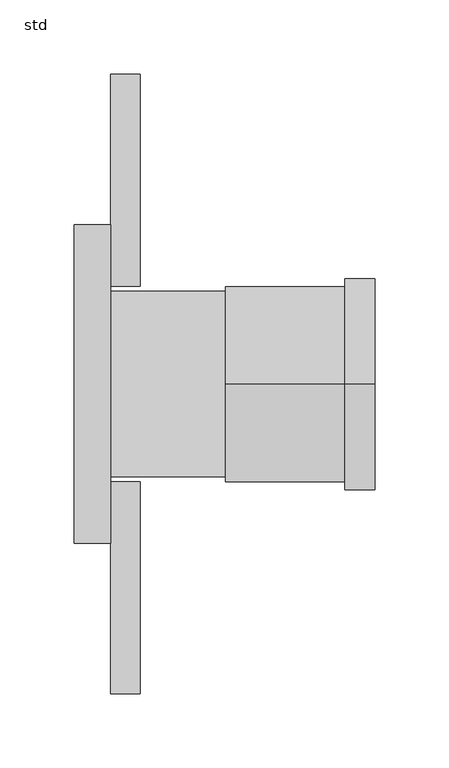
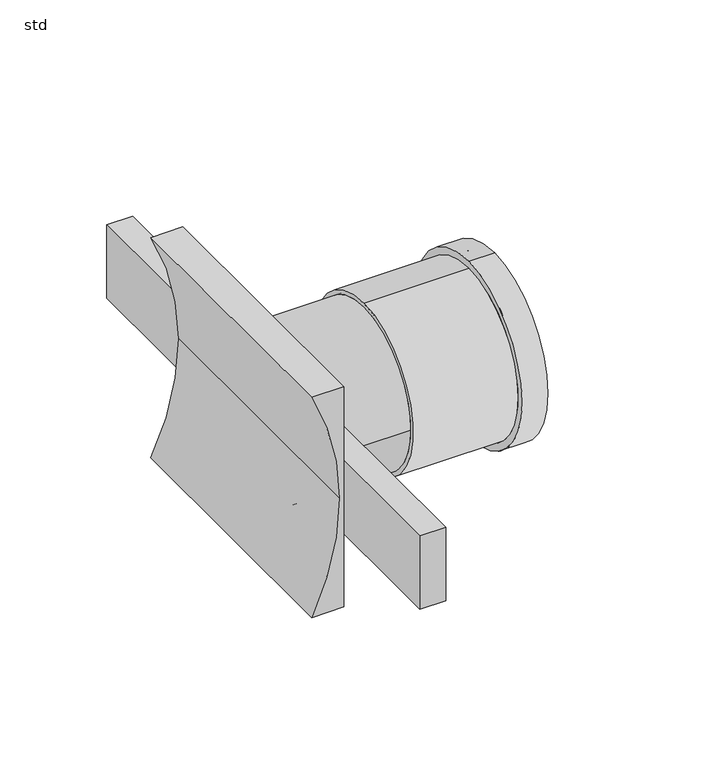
"""IFC4 building model written with IfcOpenShell, lengths in millimetres: pipe fitting geometry, NLRS_52_PIF_UN_SN4 SN8 knevelinlaat FM klem (spud) -SH_Dyka : std."""

from ifc_helpers import new_model, si_unit, frame, origin, place, context, project, spatial, polyline, circle_curve, outline, extrude, source, transform, mapped, element, save
from ifc_brep_helpers import plane_surface, cylinder_surface, revolved_surface, advanced_brep


def std_5e4ac11e(model_context):
    return source(origin(), model_context, "Body", "SolidModel", [
        advanced_brep(
        [(182.0, 0.0, -71.5), (182.0, 0.0, 71.5), (182.0, 0.0, -62.5), (182.0, 0.0, 62.5), (162.0, 0.0, -62.5), (162.0, 0.0, 62.5), (162.0, 0.0, -71.5), (162.0, 0.0, 71.5), (81.0, 0.0, -65.9), (81.0, 0.0, 65.9), (81.0, 0.0, -62.5), (81.0, 0.0, 62.5), (162.0, 0.0, 65.9), (162.0, 0.0, -65.9)],
        [
            (0, 1, circle_curve(frame((182.0, 0.0, 0.0), z_axis=(1.0, 0.0, 0.0), x_axis=(0.0, 0.0, 1.0)), 71.5)),
            (1, 0, circle_curve(frame((182.0, 0.0, 0.0), z_axis=(1.0, 0.0, 0.0), x_axis=(0.0, 0.0, 1.0)), 71.5)),
            (2, 3, circle_curve(frame((182.0, 0.0, 0.0), z_axis=(-1.0, 0.0, 0.0), x_axis=(0.0, 0.0, 1.0)), 62.5)),
            (3, 2, circle_curve(frame((182.0, 0.0, 0.0), z_axis=(-1.0, 0.0, 0.0), x_axis=(0.0, 0.0, 1.0)), 62.5)),
            (2, 4),
            (4, 5, circle_curve(frame((162.0, 0.0, 0.0), z_axis=(-1.0, 0.0, 0.0), x_axis=(0.0, 0.0, 1.0)), 62.5)),
            (5, 3),
            (5, 4, circle_curve(frame((162.0, 0.0, 0.0), z_axis=(-1.0, 0.0, 0.0), x_axis=(0.0, 0.0, 1.0)), 62.5)),
            (0, 6),
            (6, 7, circle_curve(frame((162.0, 0.0, 0.0), z_axis=(1.0, 0.0, 0.0), x_axis=(0.0, 0.0, 1.0)), 71.5)),
            (7, 1),
            (7, 6, circle_curve(frame((162.0, 0.0, 0.0), z_axis=(1.0, 0.0, 0.0), x_axis=(0.0, 0.0, 1.0)), 71.5)),
            (8, 9, circle_curve(frame((81.0, 0.0, 0.0), z_axis=(-1.0, 0.0, 0.0), x_axis=(0.0, 0.0, 1.0)), 65.9)),
            (9, 8, circle_curve(frame((81.0, 0.0, 0.0), z_axis=(-1.0, 0.0, 0.0), x_axis=(0.0, 0.0, 1.0)), 65.9)),
            (10, 11, circle_curve(frame((81.0, 0.0, 0.0), z_axis=(1.0, 0.0, 0.0), x_axis=(0.0, 0.0, 1.0)), 62.5)),
            (11, 10, circle_curve(frame((81.0, 0.0, 0.0), z_axis=(1.0, 0.0, 0.0), x_axis=(0.0, 0.0, 1.0)), 62.5)),
            (11, 5),
            (4, 10),
            (9, 12),
            (12, 13, circle_curve(frame((162.0, 0.0, 0.0), z_axis=(-1.0, 0.0, 0.0), x_axis=(0.0, 0.0, 1.0)), 65.9)),
            (13, 8),
            (13, 12, circle_curve(frame((162.0, 0.0, 0.0), z_axis=(-1.0, 0.0, 0.0), x_axis=(0.0, 0.0, 1.0)), 65.9)),
        ],
        [
            plane_surface(frame((182.0, 0.0, 62.5), z_axis=(1.0, 0.0, 0.0), x_axis=(0.0, 1.0, 0.0))),
            revolved_surface(polyline([(162.0, 0.0, 62.5), (182.0, 0.0, 62.5)]), (162.0, 0.0, 0.0), (-1.0, 0.0, 0.0)),
            cylinder_surface(frame((81.0, 0.0, 0.0), z_axis=(1.0, 0.0, 0.0), x_axis=(0.0, 0.0, 1.0)), 71.5),
            plane_surface(frame((81.0, 0.0, 62.5), z_axis=(-1.0, 0.0, 0.0), x_axis=(0.0, -1.0, 0.0))),
            revolved_surface(polyline([(81.0, 0.0, 62.5), (162.0, 0.0, 62.5)]), (81.0, 0.0, 0.0), (-1.0, 0.0, 0.0)),
            cylinder_surface(frame((81.0, 0.0, 0.0), z_axis=(1.0, 0.0, 0.0), x_axis=(0.0, 0.0, 1.0)), 65.9),
            plane_surface(frame((162.0, 0.0, 62.5), z_axis=(-1.0, 0.0, 0.0), x_axis=(0.0, -1.0, 0.0))),
        ],
        [
            (0, [[1, 2], [3, 4]]),
            (1, [[-3, 5, 6, 7]]),
            (1, [[-4, -7, 8, -5]]),
            (2, [[-1, 9, 10, 11]]),
            (2, [[-2, -11, 12, -9]]),
            (3, [[13, 14], [15, 16]]),
            (4, [[-16, 17, -6, 18]]),
            (4, [[-15, -18, -8, -17]]),
            (5, [[-14, 19, 20, 21]]),
            (5, [[-13, -21, 22, -19]]),
            (6, [[-12, -10], [-20, -22]]),
        ],
    ),
        advanced_brep(
        [(81.0, -62.5, 0.0), (81.0, 62.5, 0.0), (3.4, 62.5, 0.0), (3.4, -62.5, 0.0), (0.0, -107.5, 0.0), (0.0, 107.5, 0.0), (-21.394289, 107.5, -90.0), (-21.394289, -107.5, -90.0), (-21.394289, -107.5, 90.0), (-21.394289, 107.5, 90.0), (3.4, -107.5, -90.0), (3.4, -107.5, 90.0), (3.4, 107.5, 90.0), (3.4, 107.5, -90.0)],
        [
            (0, 1, circle_curve(frame((81.0, 0.0, 0.0), z_axis=(1.0, 0.0, 0.0), x_axis=(0.0, 1.0, 0.0)), 62.5)),
            (1, 0, circle_curve(frame((81.0, 0.0, 0.0), z_axis=(1.0, 0.0, 0.0), x_axis=(0.0, 1.0, 0.0)), 62.5)),
            (1, 2),
            (2, 3, circle_curve(frame((3.4, 0.0, 0.0), z_axis=(1.0, 0.0, 0.0), x_axis=(0.0, 1.0, 0.0)), 62.5)),
            (3, 0),
            (3, 2, circle_curve(frame((3.4, 0.0, 0.0), z_axis=(1.0, 0.0, 0.0), x_axis=(0.0, 1.0, 0.0)), 62.5)),
            (4, 5),
            (5, 6, circle_curve(frame((-200.0, 107.5, 0.0), z_axis=(0.0, 1.0, 0.0), x_axis=(1.0, 0.0, 0.0)), 200.0)),
            (6, 7),
            (7, 4, circle_curve(frame((-200.0, -107.5, 0.0), z_axis=(0.0, -1.0, 0.0), x_axis=(1.0, 0.0, 0.0)), 200.0)),
            (4, 8, circle_curve(frame((-200.0, -107.5, 0.0), z_axis=(0.0, -1.0, 0.0), x_axis=(1.0, 0.0, 0.0)), 200.0)),
            (8, 9),
            (9, 5, circle_curve(frame((-200.0, 107.5, 0.0), z_axis=(0.0, 1.0, 0.0), x_axis=(1.0, 0.0, 0.0)), 200.0)),
            (10, 11),
            (11, 8),
            (7, 10),
            (12, 13),
            (13, 6),
            (9, 12),
            (11, 12),
            (13, 10),
        ],
        [
            plane_surface(frame((81.0, 62.5, 0.0), z_axis=(1.0, 0.0, 0.0), x_axis=(0.0, 0.0, 1.0))),
            cylinder_surface(frame((0.0, 0.0, 0.0), z_axis=(1.0, 0.0, 0.0), x_axis=(0.0, 1.0, 0.0)), 62.5),
            revolved_surface(polyline([(0.0, -107.5, 0.0), (0.0, 107.5, 0.0)]), (-200.0, 215.0, 0.0), (0.0, -1.0, 0.0)),
            plane_surface(frame((-33.0, -107.5, 90.0), z_axis=(0.0, -1.0, 0.0), x_axis=(-1.0, 0.0, 0.0))),
            plane_surface(frame((-33.0, 107.5, 90.0), z_axis=(0.0, 1.0, 0.0), x_axis=(1.0, 0.0, 0.0))),
            plane_surface(frame((3.4, -107.5, 90.0), z_axis=(0.0, 0.0, 1.0), x_axis=(0.0, 1.0, 0.0))),
            plane_surface(frame((-33.0, -107.5, -90.0), z_axis=(0.0, 0.0, -1.0), x_axis=(0.0, 1.0, 0.0))),
            plane_surface(frame((3.4, -107.5, -90.0), z_axis=(1.0, 0.0, 0.0), x_axis=(0.0, 1.0, 0.0))),
        ],
        [
            (0, [[1, 2]]),
            (1, [[-2, 3, 4, 5]]),
            (1, [[-1, -5, 6, -3]]),
            (2, [[7, 8, 9, 10]]),
            (2, [[-7, 11, 12, 13]]),
            (3, [[14, 15, -11, -10, 16]]),
            (4, [[17, 18, -8, -13, 19]]),
            (5, [[20, -19, -12, -15]]),
            (6, [[21, -16, -9, -18]]),
            (7, [[-14, -21, -17, -20], [-4, -6]]),
        ],
    ),
        extrude(outline(polyline([(3.4, 65.9), (3.4, 209.4), (23.4, 209.4), (23.4, 65.9), (3.4, 65.9)])), frame((0.0, 0.0, -30.0), z_axis=(0.0, 0.0, 1.0), x_axis=(1.0, 0.0, 0.0)), (0.0, 0.0, 1.0), 60.0),
        extrude(outline(polyline([(3.4, -209.4), (3.4, -65.9), (23.4, -65.9), (23.4, -209.4), (3.4, -209.4)])), frame((0.0, 0.0, -30.0), z_axis=(0.0, 0.0, 1.0), x_axis=(1.0, 0.0, 0.0)), (0.0, 0.0, 1.0), 60.0),
    ])


if __name__ == "__main__":
    model = new_model("IFC4")
    model_context = context("Model", 3, world=origin())
    ifc_project = project(units=[si_unit("LENGTHUNIT", "METRE", prefix="MILLI")], contexts=[model_context])
    site = spatial("IfcSite", under=ifc_project)
    building = spatial("IfcBuilding", under=site)
    placement = place(None, origin())
    std_shape = std_5e4ac11e(model_context)
    element("IfcPipeFitting", 1, ObjectType="NLRS_52_PIF_UN_SN4 SN8 knevelinlaat FM klem (spud) -SH_Dyka : std", at=placement, inside=building, context=model_context, shape_type="MappedRepresentation", body=[
        mapped(std_shape, transform((0.0, 0.0, 0.0), x_axis=(1.0, 0.0, 0.0), y_axis=(0.0, 1.0, 0.0), z_axis=(0.0, 0.0, 1.0))),
    ])
    save(model, "model.ifc")
